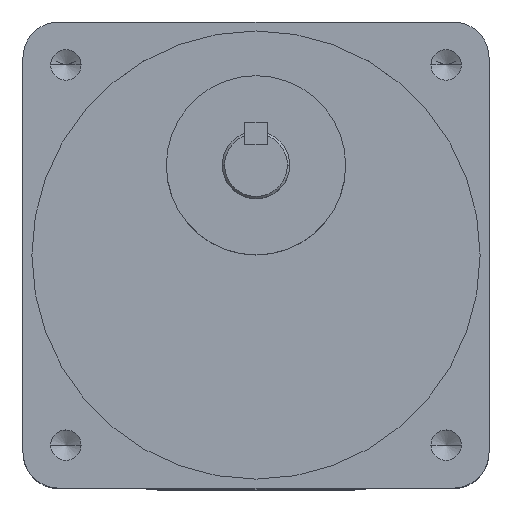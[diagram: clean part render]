
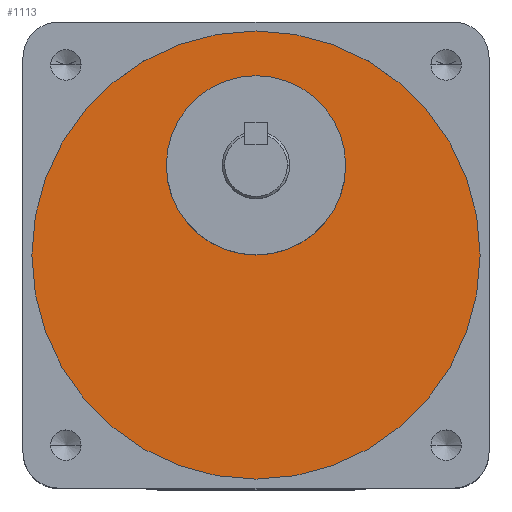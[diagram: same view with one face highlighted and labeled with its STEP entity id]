
A CAD part, top view. The second image highlights one B-rep face of the part: STEP entity #1113.
In plain terms, the highlighted planar face has unit normal (0, 0, 1).
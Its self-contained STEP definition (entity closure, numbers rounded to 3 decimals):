
#14 = DIRECTION ( 'NONE',  ( 0., 0., 1. ) ) ;
#119 = CIRCLE ( 'NONE', #2293, 20. ) ;
#294 = DIRECTION ( 'NONE',  ( 0., 0., 1. ) ) ;
#478 = AXIS2_PLACEMENT_3D ( 'NONE', #1031, #2375, #1228 ) ;
#602 = VERTEX_POINT ( 'NONE', #2240 ) ;
#626 = AXIS2_PLACEMENT_3D ( 'NONE', #1147, #14, #1343 ) ;
#671 = AXIS2_PLACEMENT_3D ( 'NONE', #2014, #294, #1060 ) ;
#688 = DIRECTION ( 'NONE',  ( 0., 0., 1. ) ) ;
#767 = VERTEX_POINT ( 'NONE', #1522 ) ;
#772 = VERTEX_POINT ( 'NONE', #1141 ) ;
#839 = CIRCLE ( 'NONE', #626, 50. ) ;
#934 = CARTESIAN_POINT ( 'NONE',  ( 0., 0., -2. ) ) ;
#961 = CIRCLE ( 'NONE', #2354, 50. ) ;
#1031 = CARTESIAN_POINT ( 'NONE',  ( 0., 20., -2. ) ) ;
#1060 = DIRECTION ( 'NONE',  ( 1., 0., 0. ) ) ;
#1113 = ADVANCED_FACE ( 'NONE', ( #2393, #2280 ), #1821, .T. ) ;
#1121 = DIRECTION ( 'NONE',  ( 1., 0., 0. ) ) ;
#1141 = CARTESIAN_POINT ( 'NONE',  ( 20., 20., -2. ) ) ;
#1145 = ORIENTED_EDGE ( 'NONE', *, *, #2220, .F. ) ;
#1147 = CARTESIAN_POINT ( 'NONE',  ( 0., 0., -2. ) ) ;
#1228 = DIRECTION ( 'NONE',  ( 1., 0., 0. ) ) ;
#1233 = EDGE_LOOP ( 'NONE', ( #1145, #2140 ) ) ;
#1290 = EDGE_CURVE ( 'NONE', #602, #767, #961, .T. ) ;
#1343 = DIRECTION ( 'NONE',  ( 1., 0., 0. ) ) ;
#1364 = EDGE_CURVE ( 'NONE', #767, #602, #839, .T. ) ;
#1522 = CARTESIAN_POINT ( 'NONE',  ( 50., 0., -2. ) ) ;
#1642 = EDGE_LOOP ( 'NONE', ( #2072, #2360 ) ) ;
#1807 = CARTESIAN_POINT ( 'NONE',  ( -20., 20., -2. ) ) ;
#1821 = PLANE ( 'NONE',  #671 ) ;
#1840 = CARTESIAN_POINT ( 'NONE',  ( 0., 20., -2. ) ) ;
#2014 = CARTESIAN_POINT ( 'NONE',  ( 0., 0., -2. ) ) ;
#2036 = DIRECTION ( 'NONE',  ( 1., 0., 0. ) ) ;
#2054 = EDGE_CURVE ( 'NONE', #772, #2101, #2442, .T. ) ;
#2072 = ORIENTED_EDGE ( 'NONE', *, *, #1364, .T. ) ;
#2101 = VERTEX_POINT ( 'NONE', #1807 ) ;
#2140 = ORIENTED_EDGE ( 'NONE', *, *, #2054, .F. ) ;
#2220 = EDGE_CURVE ( 'NONE', #2101, #772, #119, .T. ) ;
#2240 = CARTESIAN_POINT ( 'NONE',  ( -50., 0., -2. ) ) ;
#2273 = DIRECTION ( 'NONE',  ( 0., 0., 1. ) ) ;
#2280 = FACE_OUTER_BOUND ( 'NONE', #1642, .T. ) ;
#2293 = AXIS2_PLACEMENT_3D ( 'NONE', #1840, #688, #2036 ) ;
#2354 = AXIS2_PLACEMENT_3D ( 'NONE', #934, #2273, #1121 ) ;
#2360 = ORIENTED_EDGE ( 'NONE', *, *, #1290, .T. ) ;
#2375 = DIRECTION ( 'NONE',  ( 0., 0., 1. ) ) ;
#2393 = FACE_BOUND ( 'NONE', #1233, .T. ) ;
#2442 = CIRCLE ( 'NONE', #478, 20. ) ;
